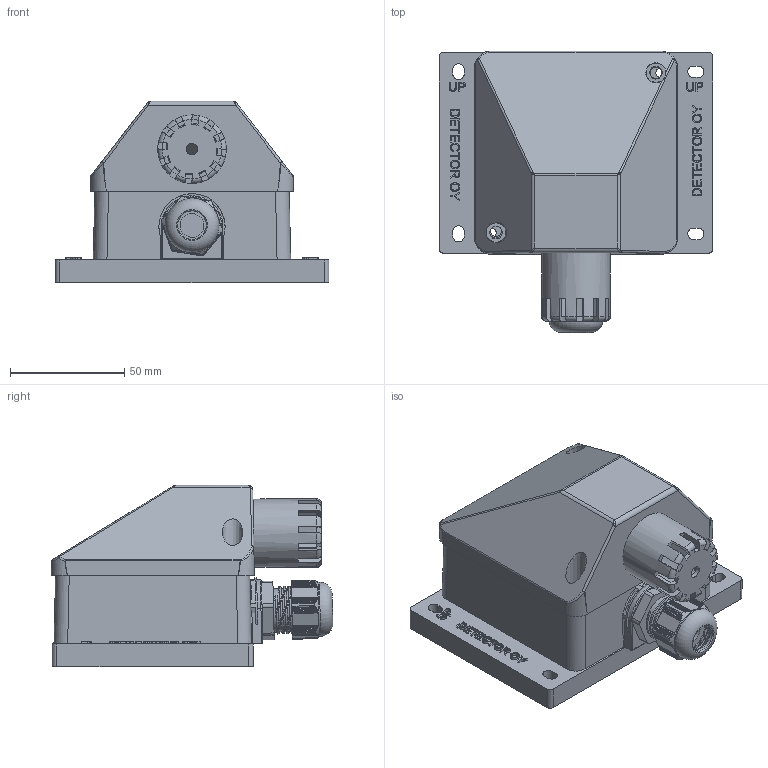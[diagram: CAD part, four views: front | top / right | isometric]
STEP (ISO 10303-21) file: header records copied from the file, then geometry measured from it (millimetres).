
FILE_DESCRIPTION(/* description */ (''),/* implementation_level */ '2;1');
FILE_NAME(/* name */ 'VARIO (sc).step',/* time_stamp */ '2026-06-29T12:49:18+03:00',/* author */ (''),/* organization */ (''),/* preprocessor_version */ 'ST-DEVELOPER v20.1',/* originating_system */ 'Autodesk Translation Framework v15.8.0.0',/* authorisation */ '');
FILE_SCHEMA (('AUTOMOTIVE_DESIGN { 1 0 10303 214 3 1 1 }'));
Length unit declared in the file: millimetre
Products named in the file (6): 2026-06-22-15-26-52-673; 311 kotelo _ Detector; NONE; 2026-06-22-15-47-44-507; Vinokansi K40; 2026-06-22-16-22-14-972
Assembly tree (5 placements, depth 2):
  2026-06-22-15-26-52-673
    311 kotelo _ Detector
    NONE
    2026-06-22-15-47-44-507
    Vinokansi K40
    2026-06-22-16-22-14-972
Bounding box: 120 x 123.39 x 79.5 mm (x, y, z)
Volume: 189899.8 mm3; surface area: 104850.1 mm2
Topology: 5 solids, 5 shells, 1214 faces, 3291 edges, 2127 vertices
Faces by surface type: plane 536, cylinder 324, bspline 276, torus 31, cone 25, sphere 22
Full cylindrical faces by diameter (mm): 2.5 x2, 3 x2, 4 x5, 5 x4, 5.5 x4, 6 x2, 9 x3, 10 x2, 12.5 x1, 12.6 x1, 17 x1, 18.95 x2, 19 x4, 20 x1, 20.8 x3, 21.5 x1, 22.5 x1, 23.7 x1, 26 x1, 29 x1, 30 x1, 73 x1
Entity records: 44794 total; most frequent: CARTESIAN_POINT 15789, ORIENTED_EDGE 6538, DIRECTION 5113, EDGE_CURVE 3269, VERTEX_POINT 2127, LINE 1835, VECTOR 1835, AXIS2_PLACEMENT_3D 1639
